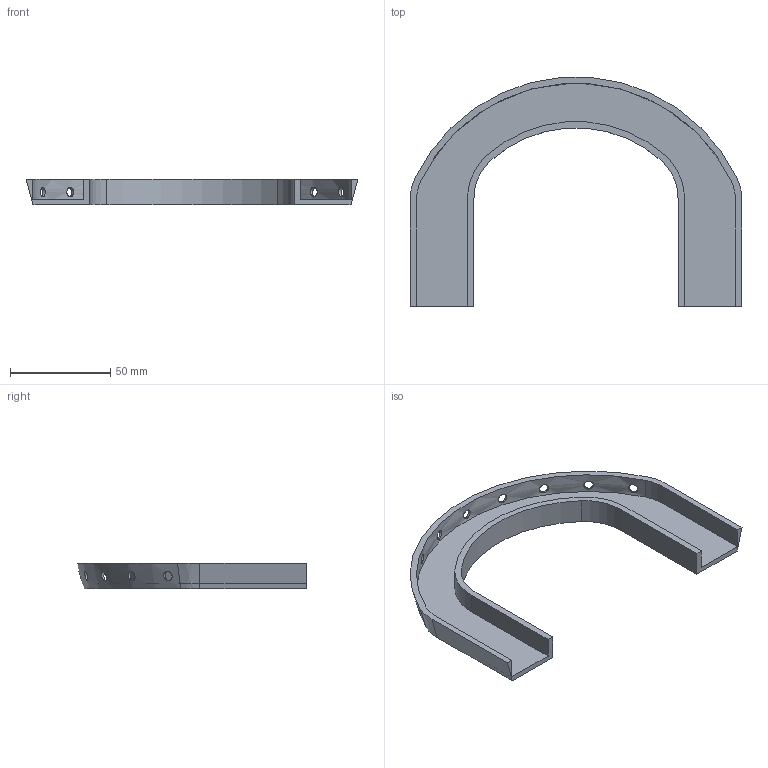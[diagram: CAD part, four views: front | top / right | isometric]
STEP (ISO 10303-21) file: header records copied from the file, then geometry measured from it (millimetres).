
FILE_DESCRIPTION(/* description */ ('','CAx-IF Rec.Pracs.---Representation and Presentation of Product Manufacturing Information (PMI)---4.0---2014-10-13'),/* implementation_level */ '2;1');
FILE_NAME(/* name */ 'C:\Users\Public\Documents\Autodesk\Inventor LT 2021\Workspace\GD&T Test - 2-11-22_PMI.stp',/* time_stamp */ '2022-02-11T13:37:40-06:00',/* author */ ('Richard'),/* organization */ (''),/* preprocessor_version */ 'ST-DEVELOPER v18.1',/* originating_system */ 'Autodesk Inventor LT',/* authorisation */ '');
FILE_SCHEMA (('AP242_MANAGED_MODEL_BASED_3D_ENGINEERING_MIM_LF { 1 0 10303 442 1 1 4 }'));
Length unit declared in the file: inch
Products named in the file (1): GD&T Test - 2-11-22
Bounding box: 165.1 x 113.97 x 12.7 mm (x, y, z)
Volume: 31725.3 mm3; surface area: 28338.3 mm2
Topology: 1 solids, 1 shells, 35 faces, 117 edges, 84 vertices
Faces by surface type: cylinder 18, plane 14, cone 3
Full cylindrical faces by diameter (mm): 4.775 x9
Entity records: 2390 total; most frequent: CARTESIAN_POINT 897, ORIENTED_EDGE 234, DIRECTION 211, EDGE_CURVE 117, COORDINATES_LIST 99, VERTEX_POINT 84, AXIS2_PLACEMENT_3D 77, TESSELLATED_CURVE_SET 60
